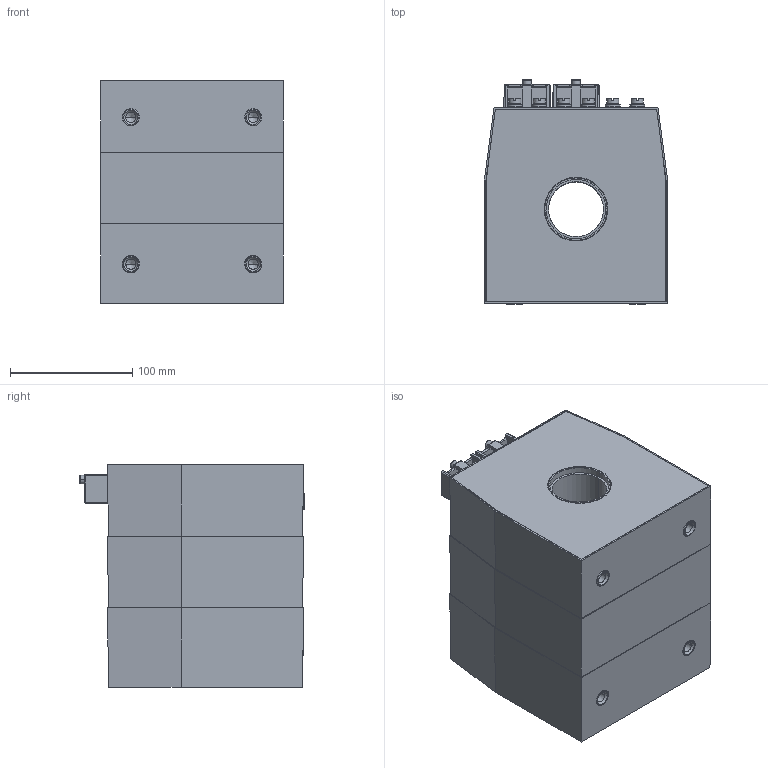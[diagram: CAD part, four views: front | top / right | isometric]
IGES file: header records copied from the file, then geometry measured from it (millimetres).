
Start section: IGES file generated from Kompas f.0 for Windows drawing by the IGES translator from Ascon Ltd., translator version IGESOUT-5.1.
Global section: file name: C:\Ðàáîòà\Èçâåùåíèÿ 5\ÒØÏ-ÍÒÇ-0.66-61...,71...,81... (ñáîðíûé)\Âåðñèÿ îò 21.05.24\Ñáîðêà ÒØ-ÍÒÇ-0,66-63 (45 ìì, 3-é ãàáàðèò).igs; native system: Kompas( 32 bit ) for Windows; preprocessor: 1.0; author: 123; organization: Microsoft; date: -17750311:101617; units: millimetre
Bounding box: 150 x 183.76 x 182 mm (x, y, z)
Volume: 641921.3 mm3; surface area: 421201 mm2
Topology: 41 solids, 41 shells, 848 faces, 1962 edges, 1210 vertices
Faces by surface type: revolution 490, bspline 358
